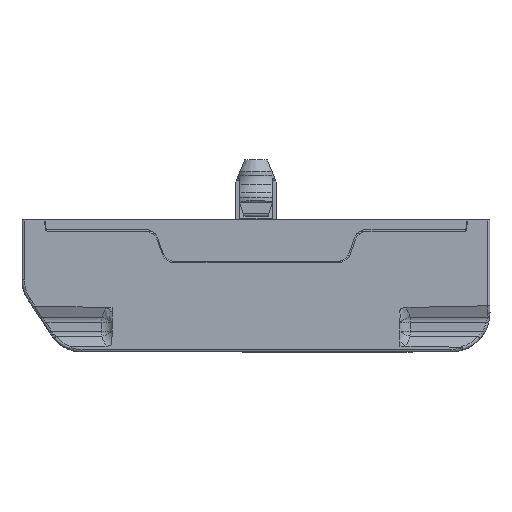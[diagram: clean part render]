
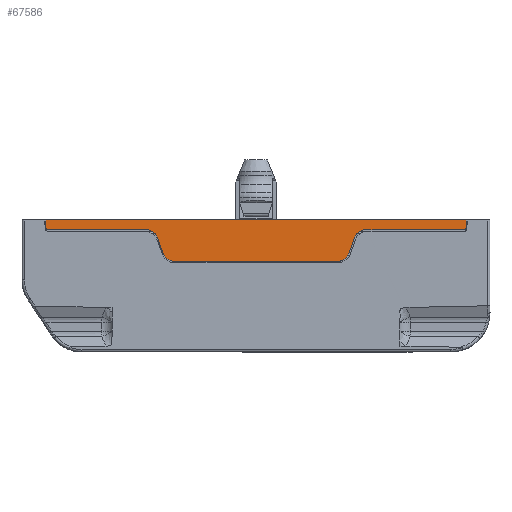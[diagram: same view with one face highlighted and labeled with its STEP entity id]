
A CAD part, front view. The second image highlights one B-rep face of the part: STEP entity #67586.
In plain terms, the highlighted planar face has unit normal (0, -1, 0).
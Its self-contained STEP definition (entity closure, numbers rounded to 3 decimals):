
#1608=CIRCLE('',#70529,0.25);
#1609=CIRCLE('',#70530,1.);
#1610=CIRCLE('',#70531,1.);
#1611=CIRCLE('',#70532,1.);
#1612=CIRCLE('',#70533,1.);
#1613=CIRCLE('',#70534,0.25);
#4363=ORIENTED_EDGE('',*,*,#18991,.T.);
#4364=ORIENTED_EDGE('',*,*,#18403,.F.);
#4365=ORIENTED_EDGE('',*,*,#18990,.T.);
#4366=ORIENTED_EDGE('',*,*,#18992,.F.);
#4367=ORIENTED_EDGE('',*,*,#18993,.T.);
#4368=ORIENTED_EDGE('',*,*,#18994,.F.);
#4369=ORIENTED_EDGE('',*,*,#18995,.F.);
#4370=ORIENTED_EDGE('',*,*,#18996,.F.);
#4371=ORIENTED_EDGE('',*,*,#18997,.F.);
#4372=ORIENTED_EDGE('',*,*,#18998,.F.);
#4373=ORIENTED_EDGE('',*,*,#18999,.F.);
#4374=ORIENTED_EDGE('',*,*,#19000,.F.);
#4375=ORIENTED_EDGE('',*,*,#19001,.T.);
#4376=ORIENTED_EDGE('',*,*,#19002,.F.);
#18403=EDGE_CURVE('',#25837,#25838,#30517,.T.);
#18990=EDGE_CURVE('',#25837,#26311,#30836,.F.);
#18991=EDGE_CURVE('',#26312,#25838,#30837,.T.);
#18992=EDGE_CURVE('',#26313,#26311,#1608,.F.);
#18993=EDGE_CURVE('',#26313,#26314,#30838,.T.);
#18994=EDGE_CURVE('',#26315,#26314,#1609,.F.);
#18995=EDGE_CURVE('',#26316,#26315,#30839,.F.);
#18996=EDGE_CURVE('',#26317,#26316,#1610,.F.);
#18997=EDGE_CURVE('',#26318,#26317,#30840,.F.);
#18998=EDGE_CURVE('',#26319,#26318,#1611,.F.);
#18999=EDGE_CURVE('',#26320,#26319,#30841,.F.);
#19000=EDGE_CURVE('',#26321,#26320,#1612,.F.);
#19001=EDGE_CURVE('',#26321,#26322,#30842,.T.);
#19002=EDGE_CURVE('',#26312,#26322,#1613,.F.);
#25837=VERTEX_POINT('',#87001);
#25838=VERTEX_POINT('',#87003);
#26311=VERTEX_POINT('',#89232);
#26312=VERTEX_POINT('',#89236);
#26313=VERTEX_POINT('',#89238);
#26314=VERTEX_POINT('',#89240);
#26315=VERTEX_POINT('',#89242);
#26316=VERTEX_POINT('',#89244);
#26317=VERTEX_POINT('',#89246);
#26318=VERTEX_POINT('',#89248);
#26319=VERTEX_POINT('',#89250);
#26320=VERTEX_POINT('',#89252);
#26321=VERTEX_POINT('',#89254);
#26322=VERTEX_POINT('',#89256);
#30517=LINE('',#87002,#35854);
#30836=LINE('',#89233,#36173);
#30837=LINE('',#89235,#36174);
#30838=LINE('',#89239,#36175);
#30839=LINE('',#89243,#36176);
#30840=LINE('',#89247,#36177);
#30841=LINE('',#89251,#36178);
#30842=LINE('',#89255,#36179);
#35854=VECTOR('',#74028,1000.);
#36173=VECTOR('',#74857,1000.);
#36174=VECTOR('',#74860,1000.);
#36175=VECTOR('',#74863,1000.);
#36176=VECTOR('',#74866,1000.);
#36177=VECTOR('',#74869,1000.);
#36178=VECTOR('',#74872,1000.);
#36179=VECTOR('',#74875,1000.);
#41197=EDGE_LOOP('',(#4363,#4364,#4365,#4366,#4367,#4368,#4369,#4370,#4371,
#4372,#4373,#4374,#4375,#4376));
#44034=FACE_BOUND('',#41197,.T.);
#46779=PLANE('',#70528);
#67586=ADVANCED_FACE('',(#44034),#46779,.T.);
#70528=AXIS2_PLACEMENT_3D('',#89234,#74858,#74859);
#70529=AXIS2_PLACEMENT_3D('',#89237,#74861,#74862);
#70530=AXIS2_PLACEMENT_3D('',#89241,#74864,#74865);
#70531=AXIS2_PLACEMENT_3D('',#89245,#74867,#74868);
#70532=AXIS2_PLACEMENT_3D('',#89249,#74870,#74871);
#70533=AXIS2_PLACEMENT_3D('',#89253,#74873,#74874);
#70534=AXIS2_PLACEMENT_3D('',#89257,#74876,#74877);
#74028=DIRECTION('',(1.,0.,0.));
#74857=DIRECTION('',(-0.017,0.,1.));
#74858=DIRECTION('',(0.,-1.,0.));
#74859=DIRECTION('',(1.,0.,0.));
#74860=DIRECTION('',(0.017,0.,1.));
#74861=DIRECTION('',(0.,-1.,0.));
#74862=DIRECTION('',(0.,0.,-1.));
#74863=DIRECTION('',(1.,0.,0.));
#74864=DIRECTION('',(0.,1.,0.));
#74865=DIRECTION('',(0.,0.,1.));
#74866=DIRECTION('',(0.342,0.,-0.94));
#74867=DIRECTION('',(0.,-1.,0.));
#74868=DIRECTION('',(-0.94,0.,-0.342));
#74869=DIRECTION('',(1.,0.,0.));
#74870=DIRECTION('',(0.,-1.,0.));
#74871=DIRECTION('',(0.,0.,-1.));
#74872=DIRECTION('',(0.342,0.,0.94));
#74873=DIRECTION('',(0.,1.,0.));
#74874=DIRECTION('',(-0.94,0.,0.342));
#74875=DIRECTION('',(1.,0.,0.));
#74876=DIRECTION('',(0.,-1.,0.));
#74877=DIRECTION('',(0.,0.,-1.));
#87001=CARTESIAN_POINT('',(-17.538,-13.475,0.));
#87002=CARTESIAN_POINT('',(-17.538,-13.475,0.));
#87003=CARTESIAN_POINT('',(17.537,-13.475,0.));
#89232=CARTESIAN_POINT('',(-17.529,-13.475,-0.546));
#89233=CARTESIAN_POINT('',(-17.529,-13.475,-0.546));
#89234=CARTESIAN_POINT('',(-17.538,-13.475,-3.45));
#89235=CARTESIAN_POINT('',(17.468,-13.475,-4.061));
#89236=CARTESIAN_POINT('',(17.529,-13.475,-0.546));
#89237=CARTESIAN_POINT('',(-17.279,-13.475,-0.55));
#89238=CARTESIAN_POINT('',(-17.279,-13.475,-0.8));
#89239=CARTESIAN_POINT('',(-17.279,-13.475,-0.8));
#89240=CARTESIAN_POINT('',(-9.165,-13.475,-0.8));
#89241=CARTESIAN_POINT('',(-9.165,-13.475,-1.8));
#89242=CARTESIAN_POINT('',(-8.225,-13.475,-1.458));
#89243=CARTESIAN_POINT('',(-8.225,-13.475,-1.458));
#89244=CARTESIAN_POINT('',(-7.739,-13.475,-2.792));
#89245=CARTESIAN_POINT('',(-6.8,-13.475,-2.45));
#89246=CARTESIAN_POINT('',(-6.8,-13.475,-3.45));
#89247=CARTESIAN_POINT('',(-6.8,-13.475,-3.45));
#89248=CARTESIAN_POINT('',(6.8,-13.475,-3.45));
#89249=CARTESIAN_POINT('',(6.8,-13.475,-2.45));
#89250=CARTESIAN_POINT('',(7.739,-13.475,-2.792));
#89251=CARTESIAN_POINT('',(7.739,-13.475,-2.792));
#89252=CARTESIAN_POINT('',(8.225,-13.475,-1.458));
#89253=CARTESIAN_POINT('',(9.165,-13.475,-1.8));
#89254=CARTESIAN_POINT('',(9.165,-13.475,-0.8));
#89255=CARTESIAN_POINT('',(9.165,-13.475,-0.8));
#89256=CARTESIAN_POINT('',(17.279,-13.475,-0.8));
#89257=CARTESIAN_POINT('',(17.279,-13.475,-0.55));
